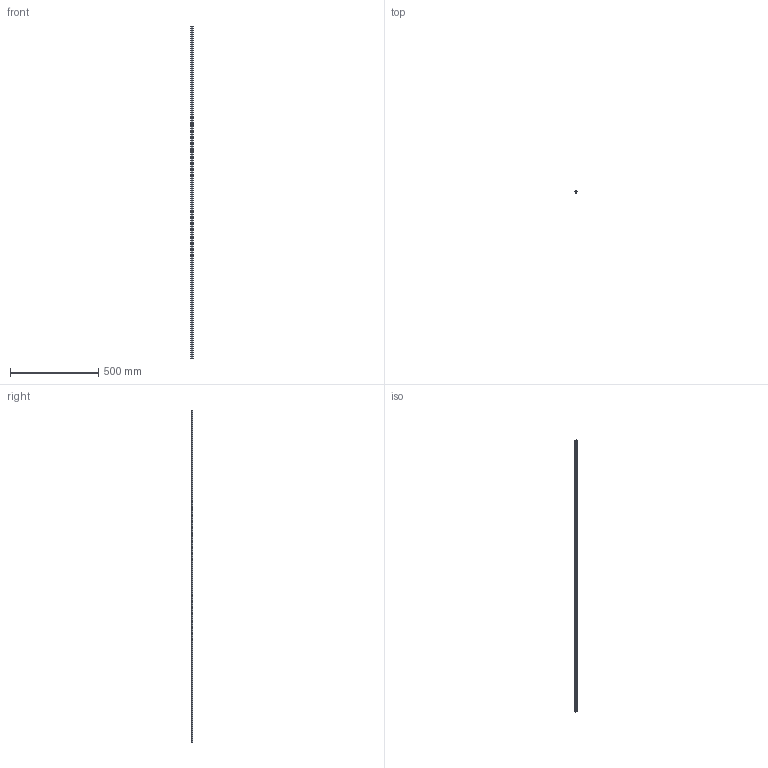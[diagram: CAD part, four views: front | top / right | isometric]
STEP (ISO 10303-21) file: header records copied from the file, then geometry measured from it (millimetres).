
FILE_DESCRIPTION(('STEP AP203'),'1');
FILE_NAME('slide_nms12l1886p3.stp','2022-07-01T04:20:05',('TraceParts'),('TraceParts S.A.'),'Spatial InterOp 3D',' ',' ');
FILE_SCHEMA(('CONFIG_CONTROL_DESIGN'));
Length unit declared in the file: millimetre
Products named in the file (1): 1
Bounding box: 12.51 x 8.1 x 1886 mm (x, y, z)
Volume: 117136.6 mm3; surface area: 86519 mm2
Topology: 1 solids, 1 shells, 240 faces, 588 edges, 392 vertices
Faces by surface type: cylinder 180, plane 60
Entity records: 7484 total; most frequent: DIRECTION 1430, CARTESIAN_POINT 1221, ORIENTED_EDGE 1176, AXIS2_PLACEMENT_3D 601, EDGE_CURVE 588, VERTEX_POINT 392, EDGE_LOOP 366, CIRCLE 360
